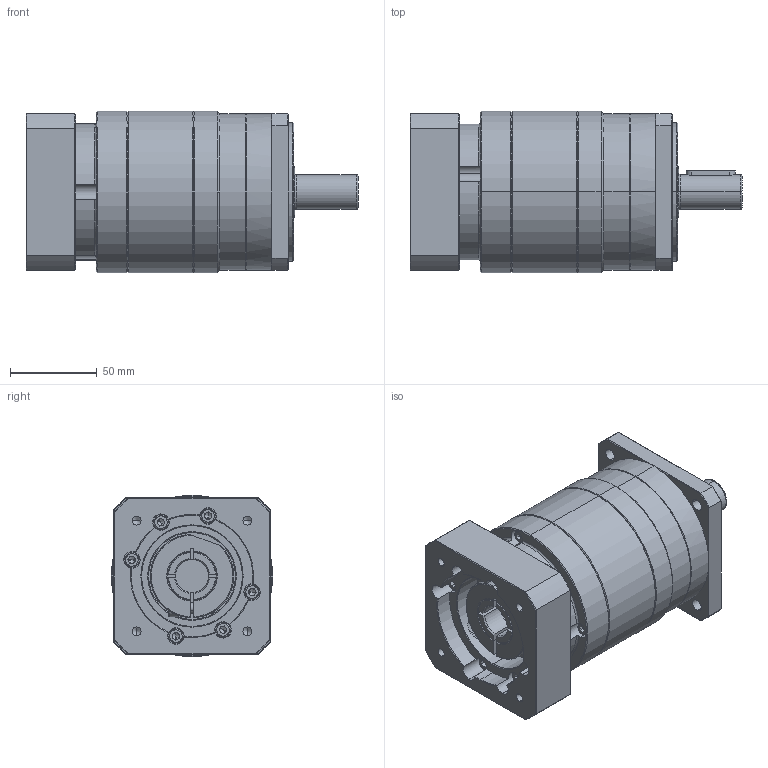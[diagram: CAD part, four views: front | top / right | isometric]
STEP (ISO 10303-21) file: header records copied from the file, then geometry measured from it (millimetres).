
FILE_DESCRIPTION (( 'STEP AP214' ), '1' );
FILE_NAME ('FB090-L2-S2-P2 19-70-90-M6.STEP', '2023-09-20T09:10:41', ( '微软用户' ), ( '微软中国' ), 'SwSTEP 2.0', 'SolidWorks 2018', '' );
FILE_SCHEMA (( 'AUTOMOTIVE_DESIGN' ));
Length unit declared in the file: millimetre
Products named in the file (14): spring lock washers--normal type gb_GB_FASTENER_WASHER_SW 5; hexagon socket head cap screws gb_GB_FASTENER_SCREWS_HSHCS M4X35-N; 笢潔楊擘俋倛芞 FB090; hexagon socket head cap screws gb_GB_FASTENER_SCREWS_HSHCS M4X25-N; 萇儂楊擘FB090 D70-M6-90F90H28.5; spring lock washers--normal type gb_GB_FASTENER_WASHER_SW 4; 输入轴FB090D19外形图; hex socket set screws with flat point gb_GB_FASTENER_SCREWS_HSFP M12X12-N; FB090-L2-S2-P2 19-70-90-M6; FB090 一级齿圈加出轴20; hexagon socket head cap screws gb_GB_FASTENER_SCREWS_HSHCS M5X20-N; FB090二级齿圈; hexagon socket head cap screws gb_GB_FASTENER_SCREWS_HSHCS M6X20-N; 標杶FB090 D24
Assembly tree (45 placements, depth 2):
  FB090-L2-S2-P2 19-70-90-M6
    FB090 一级齿圈加出轴20
    萇儂楊擘FB090 D70-M6-90F90H28.5
    笢潔楊擘俋倛芞 FB090
    输入轴FB090D19外形图
    標杶FB090 D24
    hexagon socket head cap screws gb_GB_FASTENER_SCREWS_HSHCS M5X20-N  x6
    spring lock washers--normal type gb_GB_FASTENER_WASHER_SW 5  x6
    spring lock washers--normal type gb_GB_FASTENER_WASHER_SW 4  x5
    hexagon socket head cap screws gb_GB_FASTENER_SCREWS_HSHCS M4X35-N  x12
    hexagon socket head cap screws gb_GB_FASTENER_SCREWS_HSHCS M4X25-N  x8
    hex socket set screws with flat point gb_GB_FASTENER_SCREWS_HSFP M12X12-N
    hexagon socket head cap screws gb_GB_FASTENER_SCREWS_HSHCS M6X20-N
    FB090二级齿圈
Bounding box: 191 x 93 x 93 mm (x, y, z)
Volume: 810109.7 mm3; surface area: 153391.5 mm2
Topology: 45 solids, 45 shells, 1295 faces, 3100 edges, 1907 vertices
Faces by surface type: plane 592, cylinder 402, cone 236, bspline 65
Entity records: 27189 total; most frequent: CARTESIAN_POINT 4169, DIRECTION 3465, ORIENTED_EDGE 3100, EDGE_CURVE 1550, AXIS2_PLACEMENT_3D 1396, VERTEX_POINT 990, CIRCLE 737, EDGE_LOOP 722
